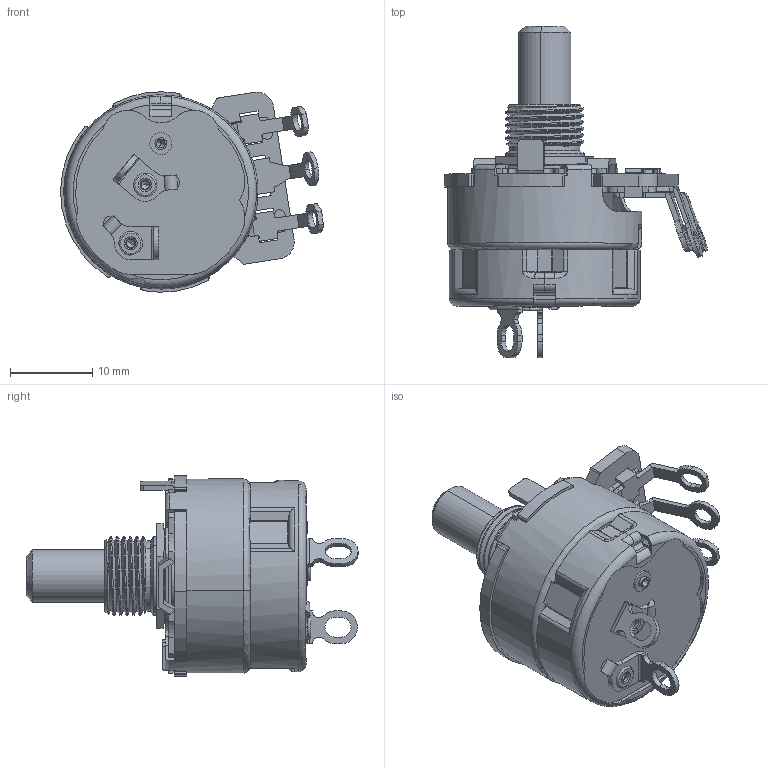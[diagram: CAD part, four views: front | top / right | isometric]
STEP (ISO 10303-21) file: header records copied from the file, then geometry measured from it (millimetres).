
FILE_DESCRIPTION (( 'STEP AP214' ), '1' );
FILE_NAME ('450T220R504A1C1.STEP', '2019-05-24T09:04:55', ( '' ), ( '' ), 'SwSTEP 2.0', 'SolidWorks 2019', '' );
FILE_SCHEMA (( 'AUTOMOTIVE_DESIGN' ));
Length unit declared in the file: millimetre
Products named in the file (18): Pivot_G_B_5C_RollOver Operation; 2-450B-4; 450D-17 for T450AEDF; T450AEDF(For 450-01-T08); 45C-2T-Left lug; Switch BaseG_A_19; G-D-1_G_E_1; 450 element; Cover_GK_4_Embossed Operatopm; SwitchBaseAssembling_Dummy GC-42T; 4S74343; Simple TGC-39; 450-01-T08-30-01G; 450T220R504A1C1; 450F-23 for T450AEDF; Counter RivotGC_C_1G_RollOver Operation; G-D-1_G_D_1; 450-40-019-02-53_2-45Q-T
Assembly tree (19 placements, depth 4):
  450T220R504A1C1
    Simple TGC-39
      Cover_GK_4_Embossed Operatopm
      SwitchBaseAssembling_Dummy GC-42T
        Switch BaseG_A_19
        G-D-1_G_D_1
        G-D-1_G_E_1
        Counter RivotGC_C_1G_RollOver Operation  x2
        Pivot_G_B_5C_RollOver Operation
    450-40-019-02-53_2-45Q-T
    T450AEDF(For 450-01-T08)
      450D-17 for T450AEDF
      450 element
      450F-23 for T450AEDF  x2
      450-01-T08-30-01G
    45C-2T-Left lug
    4S74343
    2-450B-4
Bounding box: 31.89 x 40.28 x 24.33 mm (x, y, z)
Volume: 3342.3 mm3; surface area: 8677.3 mm2
Topology: 16 solids, 16 shells, 1083 faces, 2964 edges, 1901 vertices
Faces by surface type: plane 533, cylinder 402, torus 80, cone 46, bspline 12, sphere 10
Entity records: 34010 total; most frequent: CARTESIAN_POINT 7701, DIRECTION 5446, ORIENTED_EDGE 5422, EDGE_CURVE 2711, AXIS2_PLACEMENT_3D 1955, VERTEX_POINT 1753, VECTOR 1536, LINE 1536
